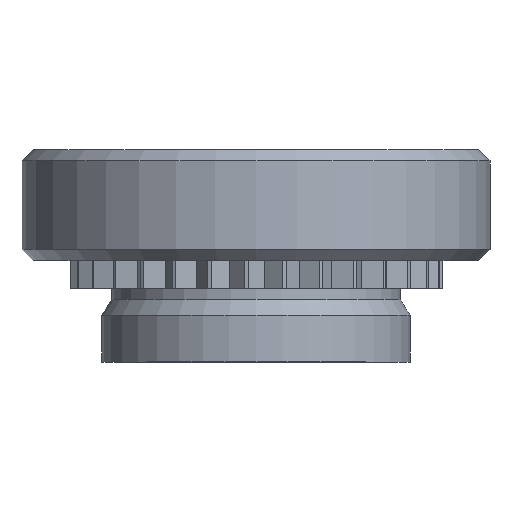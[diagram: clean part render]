
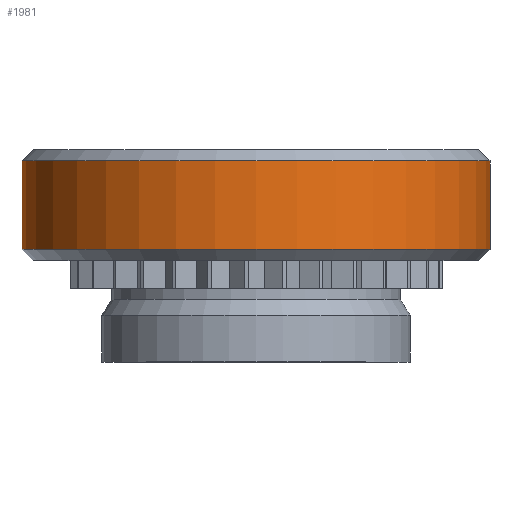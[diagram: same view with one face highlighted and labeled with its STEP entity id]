
A CAD part, top view. The second image highlights one B-rep face of the part: STEP entity #1981.
In plain terms, the highlighted cylindrical face has radius 3.175 mm (diameter 6.35 mm), a full revolution.
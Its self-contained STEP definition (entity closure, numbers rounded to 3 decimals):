
#85=CYLINDRICAL_SURFACE('',#2113,3.175);
#121=FACE_OUTER_BOUND('',#227,.T.);
#227=EDGE_LOOP('',(#1374,#1375,#1376,#1377,#1378,#1379));
#337=LINE('',#2897,#563);
#563=VECTOR('',#2305,3.175);
#789=CIRCLE('',#2111,3.175);
#790=CIRCLE('',#2112,3.175);
#791=CIRCLE('',#2114,3.175);
#792=CIRCLE('',#2115,3.175);
#866=VERTEX_POINT('',#2890);
#867=VERTEX_POINT('',#2892);
#868=VERTEX_POINT('',#2896);
#869=VERTEX_POINT('',#2898);
#1068=EDGE_CURVE('',#866,#867,#789,.T.);
#1069=EDGE_CURVE('',#867,#866,#790,.T.);
#1070=EDGE_CURVE('',#867,#868,#337,.T.);
#1071=EDGE_CURVE('',#869,#868,#791,.T.);
#1072=EDGE_CURVE('',#868,#869,#792,.T.);
#1374=ORIENTED_EDGE('',*,*,#1068,.F.);
#1375=ORIENTED_EDGE('',*,*,#1069,.F.);
#1376=ORIENTED_EDGE('',*,*,#1070,.T.);
#1377=ORIENTED_EDGE('',*,*,#1071,.F.);
#1378=ORIENTED_EDGE('',*,*,#1072,.F.);
#1379=ORIENTED_EDGE('',*,*,#1070,.F.);
#1981=ADVANCED_FACE('',(#121),#85,.T.);
#2111=AXIS2_PLACEMENT_3D('',#2893,#2299,#2300);
#2112=AXIS2_PLACEMENT_3D('',#2894,#2301,#2302);
#2113=AXIS2_PLACEMENT_3D('',#2895,#2303,#2304);
#2114=AXIS2_PLACEMENT_3D('',#2899,#2306,#2307);
#2115=AXIS2_PLACEMENT_3D('',#2900,#2308,#2309);
#2299=DIRECTION('center_axis',(0.,1.,0.));
#2300=DIRECTION('ref_axis',(1.,0.,0.));
#2301=DIRECTION('center_axis',(0.,1.,0.));
#2302=DIRECTION('ref_axis',(1.,0.,0.));
#2303=DIRECTION('center_axis',(0.,1.,0.));
#2304=DIRECTION('ref_axis',(-1.,0.,0.));
#2305=DIRECTION('',(0.,-1.,0.));
#2306=DIRECTION('center_axis',(0.,-1.,0.));
#2307=DIRECTION('ref_axis',(1.,0.,0.));
#2308=DIRECTION('center_axis',(0.,-1.,0.));
#2309=DIRECTION('ref_axis',(1.,0.,0.));
#2890=CARTESIAN_POINT('',(-3.175,2.73,0.));
#2892=CARTESIAN_POINT('',(3.175,2.73,0.));
#2893=CARTESIAN_POINT('Origin',(0.,2.73,0.));
#2894=CARTESIAN_POINT('Origin',(0.,2.73,0.));
#2895=CARTESIAN_POINT('Origin',(0.,2.13,0.));
#2896=CARTESIAN_POINT('',(3.175,1.53,0.));
#2897=CARTESIAN_POINT('',(3.175,2.13,0.));
#2898=CARTESIAN_POINT('',(-3.175,1.53,0.));
#2899=CARTESIAN_POINT('Origin',(0.,1.53,0.));
#2900=CARTESIAN_POINT('Origin',(0.,1.53,0.));
